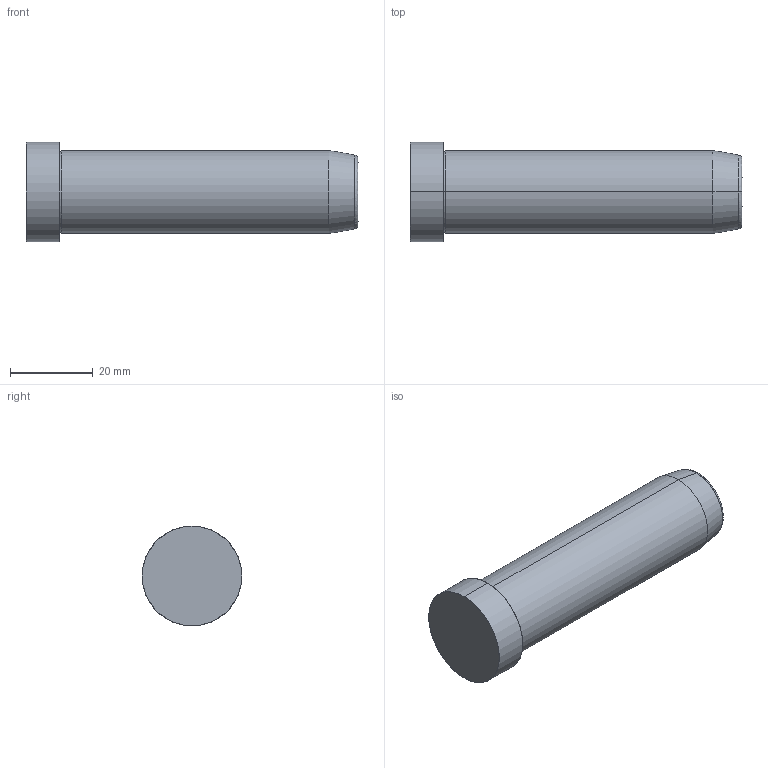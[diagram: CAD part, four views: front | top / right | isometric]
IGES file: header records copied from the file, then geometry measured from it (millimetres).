
Start section: SolidWorks IGES FILE using analytic representation for surfaces
Global section: file name: D:\zzzzz\Delta\D01 D\20\D01 D - 20x80.IGS; native system: SolidWorks 2004 by SolidWorks Corporation; preprocessor: Version 5.3; author: Hkn; date: 080326.194322; units: millimetre
Bounding box: 80 x 24 x 24 mm (x, y, z)
Surface area: 5952.7 mm2 (no closed solid volume)
Topology: 0 solids, 0 shells, 14 faces, 232 edges, 232 vertices
Faces by surface type: revolution 8, bspline 6
